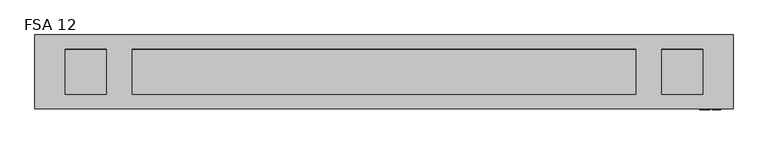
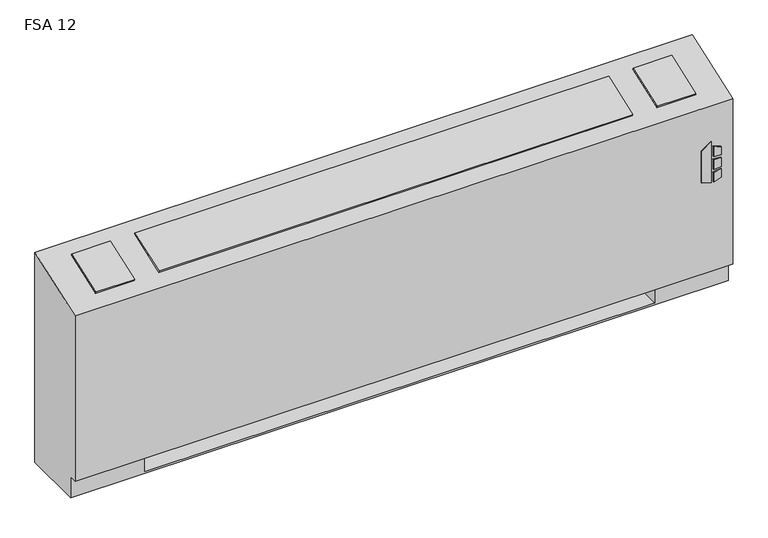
"""IFC4 building model written with IfcOpenShell, lengths in millimetres: proxy geometry, Vertical_Fan_Coil_Unit_-_FSA_-_IEC_-_2-Pipe_TS-FR_RH_2022 : FSA 12."""

from ifc_helpers import new_model, si_unit, point, frame, frame_2d, origin, place, context, project, spatial, polyline, circle_curve, trimmed, segment, composite_curve, outline, extrude, source, transform, mapped, element, save
from ifc_brep_helpers import plane_surface, revolved_surface, advanced_brep


def fsa_12_e42ce63e(model_context):
    return source(origin(), model_context, "Body", "SolidModel", [
        extrude(outline(polyline([(391.6086829, 1128.7868862), (381.6606126, 1160.9602728), (523.831537, 1160.9602728), (500.8095309, 1128.7868862), (391.6086829, 1128.7868862)])), frame((0.0, 12.7, 0.0), z_axis=(0.0, 1.0, 0.0), x_axis=(0.0, 0.0, 1.0)), (0.0, 0.0, 1.0), 3.175),
        extrude(outline(polyline([(470.6079683, 1167.7186058), (467.4055757, 1193.8), (496.6344168, 1193.8), (504.6988318, 1167.7186058), (470.6079683, 1167.7186058)])), frame((0.0, 12.7, 0.0), z_axis=(0.0, 1.0, 0.0), x_axis=(0.0, 0.0, 1.0)), (0.0, 0.0, 1.0), 3.175),
        extrude(outline(polyline([(418.7444414, 1193.8), (415.0789404, 1167.7186058), (381.6606126, 1167.7186058), (390.2948498, 1193.8), (418.7444414, 1193.8)])), frame((0.0, 12.7, 0.0), z_axis=(0.0, 1.0, 0.0), x_axis=(0.0, 0.0, 1.0)), (0.0, 0.0, 1.0), 3.175),
        extrude(outline(polyline([(458.0596028, 1193.8), (460.3414292, 1167.7186058), (424.4038806, 1167.7186058), (427.1451456, 1193.8), (458.0596028, 1193.8)])), frame((0.0, 12.7, 0.0), z_axis=(0.0, 1.0, 0.0), x_axis=(0.0, 0.0, 1.0)), (0.0, 0.0, 1.0), 3.175),
        extrude(outline(polyline([(-806.45, 81.534), (-806.45, 223.266), (-685.8, 223.266), (-685.8, 81.534), (-806.45, 81.534)])), frame((0.0, 0.0, 327.025), z_axis=(0.0, 0.0, 1.0), x_axis=(1.0, 0.0, 0.0)), (0.0, 0.0, 1.0), 260.35),
        extrude(outline(composite_curve([segment(trimmed(circle_curve(frame_2d((1054.1, 130.175)), 9.525), [point((1044.575, 130.175))], [point((1063.625, 130.175))], False, "CARTESIAN"), True, "CONTINUOUS"), segment(trimmed(circle_curve(frame_2d((1054.1, 130.175)), 9.525), [point((1063.625, 130.175))], [point((1044.575, 130.175))], False, "CARTESIAN"), True, "CONTINUOUS")], self_intersect=False)), frame((0.0, 0.0, 101.6), z_axis=(0.0, 0.0, 1.0), x_axis=(1.0, 0.0, 0.0)), (0.0, 0.0, 1.0), 25.4),
        extrude(outline(polyline([(1155.7, 196.85), (1155.7, 63.5), (990.6, 63.5), (990.6, 196.85), (1155.7, 196.85)])), frame((0.0, 0.0, 127.0), z_axis=(0.0, 0.0, 1.0), x_axis=(1.0, 0.0, 0.0)), (0.0, 0.0, 1.0), 50.8),
        extrude(outline(polyline([(0.0, -146.0500001), (0.0, 0.0), (127.0, 0.0), (127.0, -146.0500001), (0.0, -146.0500001)])), frame((-832.993, 200.4217127, 714.3418685), z_axis=(0.0, -0.3396444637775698, 0.9405538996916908), x_axis=(1.0, 0.0, 0.0)), (0.0, 0.0, 1.0), 6.35),
        extrude(outline(polyline([(0.0, -146.0500001), (0.0, 0.0), (1555.75, 0.0), (1555.75, -146.0500001), (0.0, -146.0500001)])), frame((930.275, 63.0538156, 664.7367945), z_axis=(0.0, -0.33964446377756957, 0.9405538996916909), x_axis=(-1.0, 0.0, 0.0)), (0.0, 0.0, 1.0), 6.35),
        extrude(outline(polyline([(0.0, -146.0500001), (0.0, 0.0), (127.0, 0.0), (127.0, -146.0500001), (0.0, -146.0500001)])), frame((1137.793, 63.0538156, 664.7367945), z_axis=(0.0, -0.3396444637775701, 0.9405538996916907), x_axis=(-1.0, 0.0, 0.0)), (0.0, 0.0, 1.0), 6.35),
        extrude(outline(composite_curve([segment(trimmed(circle_curve(frame_2d((109.347, 456.819)), 7.9375), [point((109.347, 464.7565))], [point((109.347, 448.8815))], False, "CARTESIAN"), True, "CONTINUOUS"), segment(trimmed(circle_curve(frame_2d((109.347, 456.819)), 7.9375), [point((109.347, 448.8815))], [point((109.347, 464.7565))], False, "CARTESIAN"), True, "CONTINUOUS")], self_intersect=False)), frame((990.6, 0.0, 0.0), z_axis=(1.0, 0.0, 0.0), x_axis=(0.0, 1.0, 0.0)), (0.0, 0.0, 1.0), 50.8),
        extrude(outline(composite_curve([segment(trimmed(circle_curve(frame_2d((157.4546, 429.4632)), 7.9375), [point((157.4546, 437.4007))], [point((157.4546, 421.5257))], False, "CARTESIAN"), True, "CONTINUOUS"), segment(trimmed(circle_curve(frame_2d((157.4546, 429.4632)), 7.9375), [point((157.4546, 421.5257))], [point((157.4546, 437.4007))], False, "CARTESIAN"), True, "CONTINUOUS")], self_intersect=False)), frame((990.6, 0.0, 0.0), z_axis=(1.0, 0.0, 0.0), x_axis=(0.0, 1.0, 0.0)), (0.0, 0.0, 1.0), 50.8),
        advanced_brep(
        [(-927.1, 244.475, 0.0), (1231.9, 244.475, 0.0), (1231.9, 41.275, 0.0), (-927.1, 41.275, 0.0), (-927.1, 244.475, 730.25), (1231.9, 244.475, 730.25), (990.6, 244.475, 73.025), (1219.2, 244.475, 73.025), (1219.2, 244.475, 654.05), (990.6, 244.475, 654.05), (990.6, 244.475, 414.8650565), (1019.175, 244.475, 414.8650565), (1019.175, 244.475, 385.2349435), (990.6, 244.475, 385.2349435), (990.6, 244.475, 287.3375), (1019.175, 244.475, 287.3375), (1019.175, 244.475, 258.7625), (990.6, 244.475, 258.7625), (990.6, 244.475, 141.2875), (1019.175, 244.475, 141.2875), (1019.175, 244.475, 112.7125), (990.6, 244.475, 112.7125), (-685.8, 244.475, 654.05), (-914.4, 244.475, 654.05), (-914.4, 244.475, 73.025), (-685.8, 244.475, 73.025), (-685.8, 244.475, 112.7125), (-714.375, 244.475, 112.7125), (-714.375, 244.475, 141.2875), (-685.8, 244.475, 141.2875), (-685.8, 244.475, 258.7625), (-714.375, 244.475, 258.7625), (-714.375, 244.475, 287.3375), (-685.8, 244.475, 287.3375), (-685.8, 244.475, 385.2349435), (-714.375, 244.475, 385.2349435), (-714.375, 244.475, 414.8650565), (-685.8, 244.475, 414.8650565), (1008.8626, 244.475, 127.0), (997.7374, 244.475, 127.0), (1008.8626, 244.475, 400.05), (997.7374, 244.475, 400.05), (1008.8626, 244.475, 273.05), (997.7374, 244.475, 273.05), (-692.9374, 244.475, 127.0), (-704.0626, 244.475, 127.0), (-692.9374, 244.475, 273.05), (-704.0626, 244.475, 273.05), (-692.9374, 244.475, 400.05), (-704.0626, 244.475, 400.05), (-927.1, 41.275, 73.025), (-927.1, 15.875, 73.025), (-927.1, 15.875, 647.7), (1231.9, 15.875, 73.025), (1231.9, 15.875, 647.7), (1231.9, 41.275, 73.025), (-685.8, 41.275, 73.025), (-685.8, 225.425, 73.025), (990.6, 225.425, 73.025), (990.6, 41.275, 73.025), (990.6, 41.275, 6.35), (-685.8, 41.275, 6.35), (990.6, 41.275, 654.05), (1219.2, 41.275, 654.05), (1219.2, 41.275, 73.025), (990.6, 41.275, 73.025), (-685.8, 41.275, 654.05), (-685.8, 41.275, 73.025), (-914.4, 41.275, 73.025), (-914.4, 41.275, 654.05), (990.6, 225.425, 73.025), (990.6, 238.125, 112.7125), (990.6, 238.125, 141.2875), (990.6, 238.125, 258.7625), (990.6, 238.125, 287.3375), (990.6, 238.125, 385.2349435), (990.6, 238.125, 414.8650565), (-685.8, 225.425, 73.025), (-685.8, 238.125, 414.8650565), (-685.8, 238.125, 385.2349435), (-685.8, 238.125, 287.3375), (-685.8, 238.125, 258.7625), (-685.8, 238.125, 141.2875), (-685.8, 238.125, 112.7125), (-685.8, 225.425, 6.35), (990.6, 225.425, 6.35), (1019.175, 238.125, 112.7125), (1019.175, 238.125, 141.2875), (997.7374, 238.125, 127.0), (1008.8626, 238.125, 127.0), (1019.175, 238.125, 258.7625), (1019.175, 238.125, 287.3375), (997.7374, 238.125, 273.05), (1008.8626, 238.125, 273.05), (1019.175, 238.125, 385.2349435), (1019.175, 238.125, 414.8650565), (997.7374, 238.125, 400.05), (1008.8626, 238.125, 400.05), (-714.375, 238.125, 141.2875), (-714.375, 238.125, 112.7125), (-704.0626, 238.125, 127.0), (-692.9374, 238.125, 127.0), (-714.375, 238.125, 287.3375), (-714.375, 238.125, 258.7625), (-704.0626, 238.125, 273.05), (-692.9374, 238.125, 273.05), (-714.375, 238.125, 414.8650565), (-714.375, 238.125, 385.2349435), (-704.0626, 238.125, 400.05), (-692.9374, 238.125, 400.05)],
        [
            (0, 1),
            (1, 2),
            (2, 3),
            (3, 0),
            (0, 4),
            (4, 5),
            (5, 1),
            (6, 7),
            (7, 8),
            (8, 9),
            (9, 10),
            (10, 11),
            (11, 12),
            (12, 13),
            (13, 14),
            (14, 15),
            (15, 16),
            (16, 17),
            (17, 18),
            (18, 19),
            (19, 20),
            (20, 21),
            (21, 6),
            (22, 23),
            (23, 24),
            (24, 25),
            (25, 26),
            (26, 27),
            (27, 28),
            (28, 29),
            (29, 30),
            (30, 31),
            (31, 32),
            (32, 33),
            (33, 34),
            (34, 35),
            (35, 36),
            (36, 37),
            (37, 22),
            (38, 39, circle_curve(frame((1003.3, 244.475, 127.0), z_axis=(0.0, -1.0, 0.0), x_axis=(-1.0, 0.0, 0.0)), 5.5626)),
            (39, 38, circle_curve(frame((1003.3, 244.475, 127.0), z_axis=(0.0, -1.0, 0.0), x_axis=(-1.0, 0.0, 0.0)), 5.5626)),
            (40, 41, circle_curve(frame((1003.3, 244.475, 400.05), z_axis=(0.0, -1.0, 0.0), x_axis=(-1.0, 0.0, 0.0)), 5.5626)),
            (41, 40, circle_curve(frame((1003.3, 244.475, 400.05), z_axis=(0.0, -1.0, 0.0), x_axis=(-1.0, 0.0, 0.0)), 5.5626)),
            (42, 43, circle_curve(frame((1003.3, 244.475, 273.05), z_axis=(0.0, -1.0, 0.0), x_axis=(-1.0, 0.0, 0.0)), 5.5626)),
            (43, 42, circle_curve(frame((1003.3, 244.475, 273.05), z_axis=(0.0, -1.0, 0.0), x_axis=(-1.0, 0.0, 0.0)), 5.5626)),
            (44, 45, circle_curve(frame((-698.5, 244.475, 127.0), z_axis=(0.0, -1.0, 0.0), x_axis=(-1.0, 0.0, 0.0)), 5.5626)),
            (45, 44, circle_curve(frame((-698.5, 244.475, 127.0), z_axis=(0.0, -1.0, 0.0), x_axis=(-1.0, 0.0, 0.0)), 5.5626)),
            (46, 47, circle_curve(frame((-698.5, 244.475, 273.05), z_axis=(0.0, -1.0, 0.0), x_axis=(-1.0, 0.0, 0.0)), 5.5626)),
            (47, 46, circle_curve(frame((-698.5, 244.475, 273.05), z_axis=(0.0, -1.0, 0.0), x_axis=(-1.0, 0.0, 0.0)), 5.5626)),
            (48, 49, circle_curve(frame((-698.5, 244.475, 400.05), z_axis=(0.0, -1.0, 0.0), x_axis=(-1.0, 0.0, 0.0)), 5.5626)),
            (49, 48, circle_curve(frame((-698.5, 244.475, 400.05), z_axis=(0.0, -1.0, 0.0), x_axis=(-1.0, 0.0, 0.0)), 5.5626)),
            (3, 50),
            (50, 51),
            (51, 52),
            (52, 4),
            (51, 53),
            (53, 54),
            (54, 52),
            (5, 54),
            (53, 55),
            (55, 2),
            (50, 56),
            (56, 57),
            (57, 58),
            (58, 59),
            (59, 55),
            (59, 60),
            (60, 61),
            (61, 56),
            (62, 63),
            (63, 64),
            (64, 65),
            (65, 62),
            (66, 67),
            (67, 68),
            (68, 69),
            (69, 66),
            (65, 70),
            (70, 6),
            (21, 71),
            (71, 72),
            (72, 18),
            (17, 73),
            (73, 74),
            (74, 14),
            (13, 75),
            (75, 76),
            (76, 10),
            (9, 62),
            (64, 7),
            (63, 8),
            (69, 23),
            (22, 66),
            (68, 24),
            (67, 77),
            (77, 25),
            (37, 78),
            (78, 79),
            (79, 34),
            (33, 80),
            (80, 81),
            (81, 30),
            (29, 82),
            (82, 83),
            (83, 26),
            (57, 84),
            (84, 85),
            (85, 58),
            (85, 60),
            (84, 61),
            (71, 86),
            (86, 87),
            (87, 72),
            (88, 89, circle_curve(frame((1003.3, 238.125, 127.0), z_axis=(0.0, 1.0, 0.0), x_axis=(-1.0, 0.0, 0.0)), 5.5626)),
            (89, 88, circle_curve(frame((1003.3, 238.125, 127.0), z_axis=(0.0, 1.0, 0.0), x_axis=(-1.0, 0.0, 0.0)), 5.5626)),
            (73, 90),
            (90, 91),
            (91, 74),
            (92, 93, circle_curve(frame((1003.3, 238.125, 273.05), z_axis=(0.0, 1.0, 0.0), x_axis=(-1.0, 0.0, 0.0)), 5.5626)),
            (93, 92, circle_curve(frame((1003.3, 238.125, 273.05), z_axis=(0.0, 1.0, 0.0), x_axis=(-1.0, 0.0, 0.0)), 5.5626)),
            (75, 94),
            (94, 95),
            (95, 76),
            (96, 97, circle_curve(frame((1003.3, 238.125, 400.05), z_axis=(0.0, 1.0, 0.0), x_axis=(-1.0, 0.0, 0.0)), 5.5626)),
            (97, 96, circle_curve(frame((1003.3, 238.125, 400.05), z_axis=(0.0, 1.0, 0.0), x_axis=(-1.0, 0.0, 0.0)), 5.5626)),
            (98, 99),
            (99, 83),
            (82, 98),
            (100, 101, circle_curve(frame((-698.5, 238.125, 127.0), z_axis=(0.0, 1.0, 0.0), x_axis=(-1.0, 0.0, 0.0)), 5.5626)),
            (101, 100, circle_curve(frame((-698.5, 238.125, 127.0), z_axis=(0.0, 1.0, 0.0), x_axis=(-1.0, 0.0, 0.0)), 5.5626)),
            (102, 103),
            (103, 81),
            (80, 102),
            (104, 105, circle_curve(frame((-698.5, 238.125, 273.05), z_axis=(0.0, 1.0, 0.0), x_axis=(-1.0, 0.0, 0.0)), 5.5626)),
            (105, 104, circle_curve(frame((-698.5, 238.125, 273.05), z_axis=(0.0, 1.0, 0.0), x_axis=(-1.0, 0.0, 0.0)), 5.5626)),
            (106, 107),
            (107, 79),
            (78, 106),
            (108, 109, circle_curve(frame((-698.5, 238.125, 400.05), z_axis=(0.0, 1.0, 0.0), x_axis=(-1.0, 0.0, 0.0)), 5.5626)),
            (109, 108, circle_curve(frame((-698.5, 238.125, 400.05), z_axis=(0.0, 1.0, 0.0), x_axis=(-1.0, 0.0, 0.0)), 5.5626)),
            (87, 19),
            (86, 20),
            (91, 15),
            (90, 16),
            (95, 11),
            (94, 12),
            (28, 98),
            (99, 27),
            (32, 102),
            (103, 31),
            (36, 106),
            (107, 35),
            (88, 39),
            (38, 89),
            (96, 41),
            (40, 97),
            (92, 43),
            (42, 93),
            (100, 45),
            (44, 101),
            (104, 47),
            (46, 105),
            (108, 49),
            (48, 109),
        ],
        [
            plane_surface(frame((-927.1, 244.475, 0.0), z_axis=(0.0, 0.0, -1.0), x_axis=(1.0, 0.0, 0.0))),
            plane_surface(frame((1231.9, 244.475, 730.25), z_axis=(0.0, 1.0, 0.0), x_axis=(0.0, 0.0, -1.0))),
            plane_surface(frame((-927.1, 244.475, 730.25), z_axis=(-1.0, 0.0, 0.0), x_axis=(0.0, 0.0, -1.0))),
            plane_surface(frame((-927.1, 15.875, 730.25), z_axis=(0.0, -1.0, 0.0), x_axis=(0.0, 0.0, -1.0))),
            plane_surface(frame((1231.9, 15.875, 730.25), z_axis=(1.0, 0.0, 0.0), x_axis=(0.0, 0.0, -1.0))),
            plane_surface(frame((-927.1, 15.875, 73.025), z_axis=(0.0, 0.0, -1.0), x_axis=(1.0, 0.0, 0.0))),
            plane_surface(frame((-927.1, 41.275, 73.025), z_axis=(0.0, -1.0, 0.0), x_axis=(1.0, 0.0, 0.0))),
            plane_surface(frame((990.6, 41.275, 654.05), z_axis=(0.0, 1.0, 0.0), x_axis=(0.0, 0.0, -1.0))),
            plane_surface(frame((990.6, 41.275, 654.05), z_axis=(1.0, 0.0, 0.0), x_axis=(0.0, 1.0, 0.0))),
            plane_surface(frame((990.6, 41.275, 73.025), z_axis=(0.0, 0.0, 1.0), x_axis=(0.0, 1.0, 0.0))),
            plane_surface(frame((1219.2, 41.275, 73.025), z_axis=(-1.0, 0.0, 0.0), x_axis=(0.0, 1.0, 0.0))),
            plane_surface(frame((1219.2, 41.275, 654.05), z_axis=(0.0, 0.0, -1.0), x_axis=(0.0, 1.0, 0.0))),
            plane_surface(frame((-685.8, 41.275, 654.05), z_axis=(0.0, 0.0, -1.0), x_axis=(0.0, 1.0, 0.0))),
            plane_surface(frame((-914.4, 41.275, 654.05), z_axis=(1.0, 0.0, 0.0), x_axis=(0.0, 1.0, 0.0))),
            plane_surface(frame((-914.4, 41.275, 73.025), z_axis=(0.0, 0.0, 1.0), x_axis=(0.0, 1.0, 0.0))),
            plane_surface(frame((-685.8, 41.275, 73.025), z_axis=(-1.0, 0.0, 0.0), x_axis=(0.0, 1.0, 0.0))),
            plane_surface(frame((990.6, 225.425, 73.025), z_axis=(0.0, -1.0, 0.0), x_axis=(0.0, 0.0, -1.0))),
            plane_surface(frame((990.6, 225.425, 73.025), z_axis=(-1.0, 0.0, 0.0), x_axis=(0.0, -1.0, 0.0))),
            plane_surface(frame((990.6, 225.425, 6.35), z_axis=(0.0, 0.0, 1.0), x_axis=(0.0, -1.0, 0.0))),
            plane_surface(frame((-685.8, 225.425, 6.35), z_axis=(1.0, 0.0, 0.0), x_axis=(0.0, -1.0, 0.0))),
            plane_surface(frame((1019.175, 238.125, 141.2875), z_axis=(0.0, -1.0, 0.0), x_axis=(-1.0, 0.0, 0.0))),
            plane_surface(frame((990.6, 244.475, 141.2875), z_axis=(0.0, 0.0, 1.0), x_axis=(0.0, -1.0, 0.0))),
            plane_surface(frame((1019.175, 244.475, 141.2875), z_axis=(1.0, 0.0, 0.0), x_axis=(0.0, -1.0, 0.0))),
            plane_surface(frame((1019.175, 244.475, 112.7125), z_axis=(0.0, 0.0, -1.0), x_axis=(0.0, -1.0, 0.0))),
            plane_surface(frame((990.6, 244.475, 287.3375), z_axis=(0.0, 0.0, 1.0), x_axis=(0.0, -1.0, 0.0))),
            plane_surface(frame((1019.175, 244.475, 287.3375), z_axis=(1.0, 0.0, 0.0), x_axis=(0.0, -1.0, 0.0))),
            plane_surface(frame((1019.175, 244.475, 258.7625), z_axis=(0.0, 0.0, -1.0), x_axis=(0.0, -1.0, 0.0))),
            plane_surface(frame((990.6, 244.475, 414.8650565), z_axis=(0.0, 0.0, 1.0), x_axis=(0.0, -1.0, 0.0))),
            plane_surface(frame((1019.175, 244.475, 414.8650565), z_axis=(1.0, 0.0, 0.0), x_axis=(0.0, -1.0, 0.0))),
            plane_surface(frame((1019.175, 244.475, 385.2349435), z_axis=(0.0, 0.0, -1.0), x_axis=(0.0, -1.0, 0.0))),
            plane_surface(frame((-714.375, 244.475, 141.2875), z_axis=(0.0, 0.0, 1.0), x_axis=(0.0, -1.0, 0.0))),
            plane_surface(frame((-685.8, 244.475, 112.7125), z_axis=(0.0, 0.0, -1.0), x_axis=(0.0, -1.0, 0.0))),
            plane_surface(frame((-714.375, 244.475, 112.7125), z_axis=(-1.0, 0.0, 0.0), x_axis=(0.0, -1.0, 0.0))),
            plane_surface(frame((-714.375, 244.475, 287.3375), z_axis=(0.0, 0.0, 1.0), x_axis=(0.0, -1.0, 0.0))),
            plane_surface(frame((-685.8, 244.475, 258.7625), z_axis=(0.0, 0.0, -1.0), x_axis=(0.0, -1.0, 0.0))),
            plane_surface(frame((-714.375, 244.475, 258.7625), z_axis=(-1.0, 0.0, 0.0), x_axis=(0.0, -1.0, 0.0))),
            plane_surface(frame((-714.375, 244.475, 414.8650565), z_axis=(0.0, 0.0, 1.0), x_axis=(0.0, -1.0, 0.0))),
            plane_surface(frame((-685.8, 244.475, 385.2349435), z_axis=(0.0, 0.0, -1.0), x_axis=(0.0, -1.0, 0.0))),
            plane_surface(frame((-714.375, 244.475, 385.2349435), z_axis=(-1.0, 0.0, 0.0), x_axis=(0.0, -1.0, 0.0))),
            revolved_surface(polyline([(997.7374, 238.125, 127.0), (997.7374, 244.475, 127.0)]), (1003.3, 244.475, 127.0), (0.0, -1.0, 0.0)),
            revolved_surface(polyline([(997.7374, 238.125, 400.05), (997.7374, 244.475, 400.05)]), (1003.3, 244.475, 400.05), (0.0, -1.0, 0.0)),
            revolved_surface(polyline([(997.7374, 238.125, 273.05), (997.7374, 244.475, 273.05)]), (1003.3, 244.475, 273.05), (0.0, -1.0, 0.0)),
            revolved_surface(polyline([(-704.0626, 238.125, 127.0), (-704.0626, 244.475, 127.0)]), (-698.5, 244.475, 127.0), (0.0, -1.0, 0.0)),
            revolved_surface(polyline([(-704.0626, 238.125, 273.05), (-704.0626, 244.475, 273.05)]), (-698.5, 244.475, 273.05), (0.0, -1.0, 0.0)),
            revolved_surface(polyline([(-704.0626, 238.125, 400.05), (-704.0626, 244.475, 400.05)]), (-698.5, 244.475, 400.05), (0.0, -1.0, 0.0)),
            plane_surface(frame((-927.1, 244.475, 730.25), z_axis=(0.0, -0.33964446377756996, 0.9405538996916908), x_axis=(1.0, 0.0, 0.0))),
        ],
        [
            (0, [[1, 2, 3, 4]]),
            (1, [[-1, 5, 6, 7], [8, 9, 10, 11, 12, 13, 14, 15, 16, 17, 18, 19, 20, 21, 22, 23], [24, 25, 26, 27, 28, 29, 30, 31, 32, 33, 34, 35, 36, 37, 38, 39], [40, 41], [42, 43], [44, 45], [46, 47], [48, 49], [50, 51]]),
            (2, [[-5, -4, 52, 53, 54, 55]]),
            (3, [[56, 57, 58, -54]]),
            (4, [[-7, 59, -57, 60, 61, -2]]),
            (5, [[-53, 62, 63, 64, 65, 66, -60, -56]]),
            (6, [[-3, -61, -66, 67, 68, 69, -62, -52]]),
            (7, [[70, 71, 72, 73]]),
            (7, [[74, 75, 76, 77]]),
            (8, [[-73, 78, 79, -23, 80, 81, 82, -19, 83, 84, 85, -15, 86, 87, 88, -11, 89]]),
            (9, [[-72, 90, -8, -79, -78]]),
            (10, [[-71, 91, -9, -90]]),
            (11, [[-70, -89, -10, -91]]),
            (12, [[-77, 92, -24, 93]]),
            (13, [[-76, 94, -25, -92]]),
            (14, [[-75, 95, 96, -26, -94]]),
            (15, [[-74, -93, -39, 97, 98, 99, -35, 100, 101, 102, -31, 103, 104, 105, -27, -96, -95]]),
            (16, [[-64, 106, 107, 108]]),
            (17, [[-108, 109, -67, -65]]),
            (18, [[-107, 110, -68, -109]]),
            (19, [[-106, -63, -69, -110]]),
            (20, [[111, 112, 113, -81], [114, 115]]),
            (20, [[116, 117, 118, -84], [119, 120]]),
            (20, [[121, 122, 123, -87], [124, 125]]),
            (20, [[126, 127, -104, 128], [129, 130]]),
            (20, [[131, 132, -101, 133], [134, 135]]),
            (20, [[136, 137, -98, 138], [139, 140]]),
            (21, [[-113, 141, -20, -82]]),
            (22, [[-112, 142, -21, -141]]),
            (23, [[-111, -80, -22, -142]]),
            (24, [[-118, 143, -16, -85]]),
            (25, [[-117, 144, -17, -143]]),
            (26, [[-116, -83, -18, -144]]),
            (27, [[-123, 145, -12, -88]]),
            (28, [[-122, 146, -13, -145]]),
            (29, [[-121, -86, -14, -146]]),
            (30, [[-128, -103, -30, 147]]),
            (31, [[-127, 148, -28, -105]]),
            (32, [[-126, -147, -29, -148]]),
            (33, [[-133, -100, -34, 149]]),
            (34, [[-132, 150, -32, -102]]),
            (35, [[-131, -149, -33, -150]]),
            (36, [[-138, -97, -38, 151]]),
            (37, [[-137, 152, -36, -99]]),
            (38, [[-136, -151, -37, -152]]),
            (39, [[153, -40, 154, -114]]),
            (39, [[-153, -115, -154, -41]]),
            (40, [[155, -42, 156, -124]]),
            (40, [[-155, -125, -156, -43]]),
            (41, [[157, -44, 158, -119]]),
            (41, [[-157, -120, -158, -45]]),
            (42, [[159, -46, 160, -129]]),
            (42, [[-159, -130, -160, -47]]),
            (43, [[161, -48, 162, -134]]),
            (43, [[-161, -135, -162, -49]]),
            (44, [[163, -50, 164, -139]]),
            (44, [[-163, -140, -164, -51]]),
            (45, [[-6, -55, -58, -59]]),
        ],
    ),
    ])


if __name__ == "__main__":
    model = new_model("IFC4")
    model_context = context("Model", 3, world=origin())
    ifc_project = project(units=[si_unit("LENGTHUNIT", "METRE", prefix="MILLI")], contexts=[model_context])
    site = spatial("IfcSite", under=ifc_project)
    building = spatial("IfcBuilding", under=site)
    placement = place(None, origin())
    fsa_12_shape = fsa_12_e42ce63e(model_context)
    element("IfcBuildingElementProxy", 1, Name="Vertical_Fan_Coil_Unit_-_FSA_-_IEC_-_2-Pipe_TS-FR_RH_2022 : FSA 12", ObjectType="Vertical_Fan_Coil_Unit_-_FSA_-_IEC_-_2-Pipe_TS-FR_RH_2022 : FSA 12", at=placement, inside=building, context=model_context, shape_type="MappedRepresentation", body=[
        mapped(fsa_12_shape, transform((0.0, 0.0, 0.0), x_axis=(1.0, 0.0, 0.0), y_axis=(0.0, 1.0, 0.0), z_axis=(0.0, 0.0, 1.0))),
    ])
    save(model, "model.ifc")
